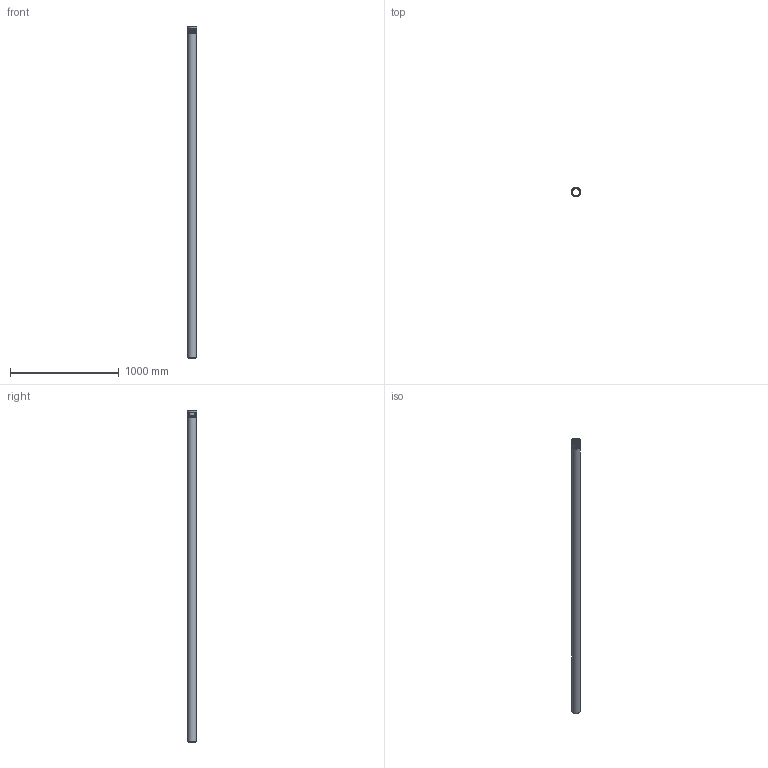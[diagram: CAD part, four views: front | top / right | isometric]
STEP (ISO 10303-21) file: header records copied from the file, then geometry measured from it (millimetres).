
FILE_DESCRIPTION(/* description */ (''),/* implementation_level */ '2;1');
FILE_NAME(/* name */ 'Z:\Geberit\Export\NewStep\390307.stp',/* time_stamp */ '2014-04-02T08:11:20+02:00',/* author */ ('ML'),/* organization */ (''),/* preprocessor_version */ 'ST-DEVELOPER v15.2',/* originating_system */ 'Autodesk Inventor 2014',/* authorisation */ '');
FILE_SCHEMA (('AUTOMOTIVE_DESIGN { 1 0 10303 214 3 1 1 }'));
Length unit declared in the file: millimetre
Products named in the file (3): 861430; 861583ohne; 390307
Bounding box: 89.4 x 89.4 x 3055.7 mm (x, y, z)
Volume: 1828263.4 mm3; surface area: 1409387.7 mm2
Topology: 2 solids, 2 shells, 47 faces, 104 edges, 71 vertices
Faces by surface type: torus 24, cylinder 11, plane 10, cone 2
Full cylindrical faces by diameter (mm): 70 x2, 75.2 x2, 76 x2, 78.6 x1, 81.2 x2, 84.2 x1, 89.4 x1
Entity records: 2003 total; most frequent: CARTESIAN_POINT 962, DIRECTION 182, ORIENTED_EDGE 174, AXIS2_PLACEMENT_3D 91, EDGE_CURVE 87, EDGE_LOOP 78, VERTEX_POINT 71, STYLED_ITEM 49
